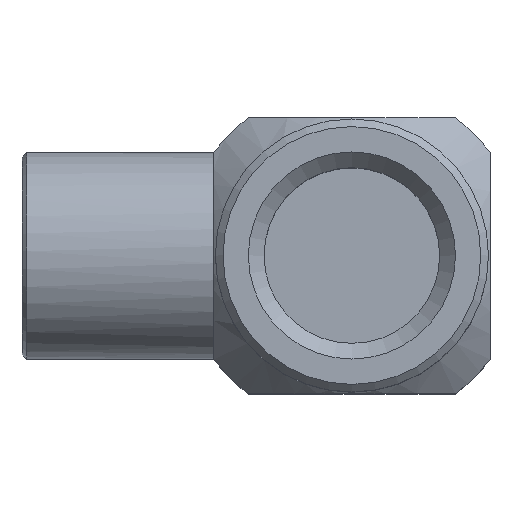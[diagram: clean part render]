
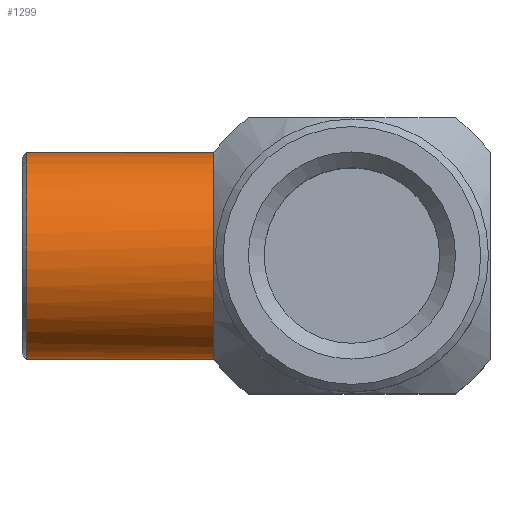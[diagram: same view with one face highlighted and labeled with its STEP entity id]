
A CAD part, top view. The second image highlights one B-rep face of the part: STEP entity #1299.
In plain terms, the highlighted cylindrical face has radius 6.75 mm (diameter 13.5 mm), a full revolution.
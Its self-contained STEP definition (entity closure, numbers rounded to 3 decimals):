
#97=CYLINDRICAL_SURFACE('',#1401,6.75);
#122=LINE('',#1804,#208);
#208=VECTOR('',#1521,6.75);
#371=FACE_OUTER_BOUND('',#443,.T.);
#443=EDGE_LOOP('',(#902,#903,#904,#905,#906,#907,#908));
#519=CIRCLE('',#1391,6.75);
#520=CIRCLE('',#1393,6.75);
#521=CIRCLE('',#1394,6.75);
#526=CIRCLE('',#1402,6.75);
#527=CIRCLE('',#1403,6.75);
#565=VERTEX_POINT('',#1760);
#566=VERTEX_POINT('',#1761);
#570=VERTEX_POINT('',#1775);
#578=VERTEX_POINT('',#1800);
#579=VERTEX_POINT('',#1801);
#695=EDGE_CURVE('',#565,#566,#519,.T.);
#700=EDGE_CURVE('',#566,#570,#520,.T.);
#701=EDGE_CURVE('',#570,#565,#521,.T.);
#710=EDGE_CURVE('',#578,#579,#526,.T.);
#711=EDGE_CURVE('',#579,#578,#527,.T.);
#712=EDGE_CURVE('',#579,#570,#122,.T.);
#902=ORIENTED_EDGE('',*,*,#710,.F.);
#903=ORIENTED_EDGE('',*,*,#711,.F.);
#904=ORIENTED_EDGE('',*,*,#712,.T.);
#905=ORIENTED_EDGE('',*,*,#700,.F.);
#906=ORIENTED_EDGE('',*,*,#695,.F.);
#907=ORIENTED_EDGE('',*,*,#701,.F.);
#908=ORIENTED_EDGE('',*,*,#712,.F.);
#1299=ADVANCED_FACE('',(#371),#97,.T.);
#1391=AXIS2_PLACEMENT_3D('',#1762,#1491,#1492);
#1393=AXIS2_PLACEMENT_3D('',#1776,#1497,#1498);
#1394=AXIS2_PLACEMENT_3D('',#1777,#1499,#1500);
#1401=AXIS2_PLACEMENT_3D('',#1799,#1515,#1516);
#1402=AXIS2_PLACEMENT_3D('',#1802,#1517,#1518);
#1403=AXIS2_PLACEMENT_3D('',#1803,#1519,#1520);
#1491=DIRECTION('center_axis',(1.,0.,0.));
#1492=DIRECTION('ref_axis',(0.,0.,-1.));
#1497=DIRECTION('center_axis',(1.,0.,0.));
#1498=DIRECTION('ref_axis',(0.,0.,-1.));
#1499=DIRECTION('center_axis',(1.,0.,0.));
#1500=DIRECTION('ref_axis',(0.,0.,-1.));
#1515=DIRECTION('center_axis',(-1.,0.,0.));
#1516=DIRECTION('ref_axis',(0.,-0.888,-0.461));
#1517=DIRECTION('center_axis',(-1.,0.,0.));
#1518=DIRECTION('ref_axis',(0.,0.888,0.461));
#1519=DIRECTION('center_axis',(-1.,0.,0.));
#1520=DIRECTION('ref_axis',(0.,0.888,0.461));
#1521=DIRECTION('',(1.,0.,0.));
#1760=CARTESIAN_POINT('',(-9.,-6.75,-1.5));
#1761=CARTESIAN_POINT('',(-9.,6.75,-1.5));
#1762=CARTESIAN_POINT('Origin',(-9.,0.,-1.5));
#1775=CARTESIAN_POINT('',(-9.,5.991,1.61));
#1776=CARTESIAN_POINT('Origin',(-9.,0.,-1.5));
#1777=CARTESIAN_POINT('Origin',(-9.,0.,-1.5));
#1799=CARTESIAN_POINT('Origin',(-15.25,0.,-1.5));
#1800=CARTESIAN_POINT('',(-21.2,-5.991,-4.61));
#1801=CARTESIAN_POINT('',(-21.2,5.991,1.61));
#1802=CARTESIAN_POINT('Origin',(-21.2,0.,-1.5));
#1803=CARTESIAN_POINT('Origin',(-21.2,0.,-1.5));
#1804=CARTESIAN_POINT('',(-15.25,5.991,1.61));
